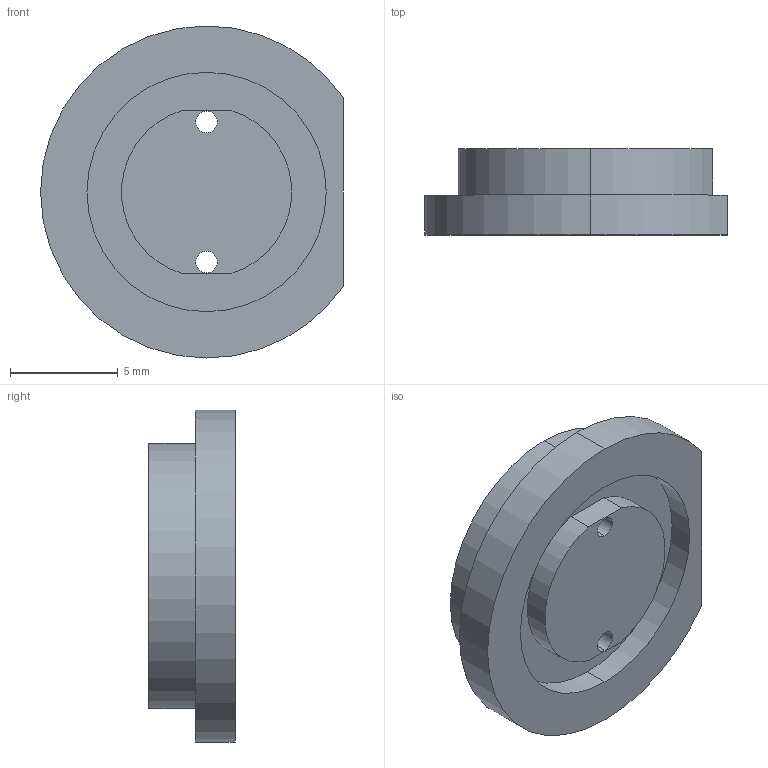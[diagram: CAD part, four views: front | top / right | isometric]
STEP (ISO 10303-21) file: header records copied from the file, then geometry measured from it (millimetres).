
FILE_DESCRIPTION (( 'STEP AP203' ), '1' );
FILE_NAME ('Fluidic-Cell-M2.STEP', '2015-05-08T15:08:18', ( '' ), ( '' ), 'SwSTEP 2.0', 'S', '' );
FILE_SCHEMA (( 'CONFIG_CONTROL_DESIGN' ));
Length unit declared in the file: millimetre
Products named in the file (1): Fluidic-Cell-M2
Bounding box: 14.04 x 4 x 15.4 mm (x, y, z)
Volume: 513.7 mm3; surface area: 661 mm2
Topology: 1 solids, 1 shells, 35 faces, 78 edges, 52 vertices
Faces by surface type: cylinder 22, plane 13
Entity records: 1081 total; most frequent: DIRECTION 194, CARTESIAN_POINT 166, ORIENTED_EDGE 156, AXIS2_PLACEMENT_3D 80, EDGE_CURVE 78, VERTEX_POINT 52, EDGE_LOOP 46, CIRCLE 44
